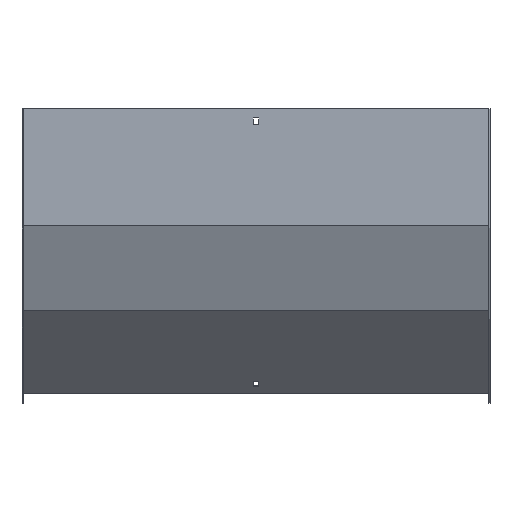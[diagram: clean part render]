
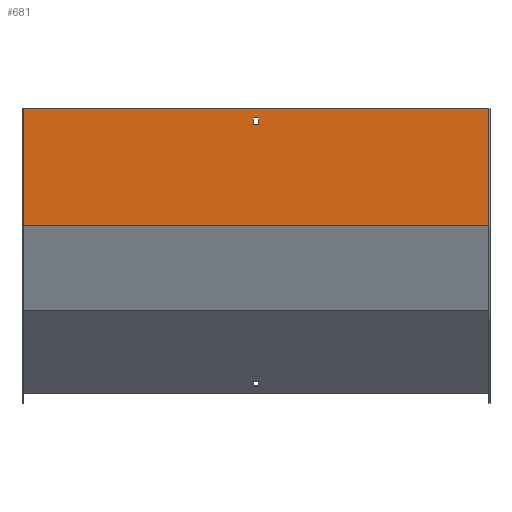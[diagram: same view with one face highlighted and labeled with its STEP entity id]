
A CAD part, front view. The second image highlights one B-rep face of the part: STEP entity #681.
In plain terms, the highlighted planar face has unit normal (0, -1, 0).
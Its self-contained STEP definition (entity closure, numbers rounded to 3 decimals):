
#9 = PLANE ( 'NONE',  #100 ) ;
#21 = DIRECTION ( 'NONE',  ( 0., 0., 1. ) ) ;
#25 = VERTEX_POINT ( 'NONE', #84 ) ;
#43 = VECTOR ( 'NONE', #320, 1000. ) ;
#49 = VERTEX_POINT ( 'NONE', #472 ) ;
#51 = EDGE_CURVE ( 'NONE', #25, #166, #286, .T. ) ;
#55 = VECTOR ( 'NONE', #289, 1000. ) ;
#56 = EDGE_LOOP ( 'NONE', ( #506, #301, #297, #788 ) ) ;
#84 = CARTESIAN_POINT ( 'NONE',  ( 300., -1.5, 0. ) ) ;
#88 = ORIENTED_EDGE ( 'NONE', *, *, #819, .F. ) ;
#91 = CARTESIAN_POINT ( 'NONE',  ( 300., -1.5, 0. ) ) ;
#97 = EDGE_LOOP ( 'NONE', ( #462, #88, #588, #510 ) ) ;
#98 = EDGE_CURVE ( 'NONE', #25, #497, #353, .T. ) ;
#100 = AXIS2_PLACEMENT_3D ( 'NONE', #278, #485, #732 ) ;
#110 = VERTEX_POINT ( 'NONE', #348 ) ;
#115 = CARTESIAN_POINT ( 'NONE',  ( 301.5, -1.5, -21. ) ) ;
#126 = VERTEX_POINT ( 'NONE', #527 ) ;
#134 = CARTESIAN_POINT ( 'NONE',  ( -3.25, -1.5, 0. ) ) ;
#165 = CARTESIAN_POINT ( 'NONE',  ( 301.5, -1.5, -150.098 ) ) ;
#166 = VERTEX_POINT ( 'NONE', #213 ) ;
#170 = CARTESIAN_POINT ( 'NONE',  ( -300., -1.5, 0. ) ) ;
#171 = VECTOR ( 'NONE', #209, 1000. ) ;
#209 = DIRECTION ( 'NONE',  ( 0., 0., -1. ) ) ;
#211 = VECTOR ( 'NONE', #21, 1000. ) ;
#213 = CARTESIAN_POINT ( 'NONE',  ( 300., -1.5, -150.098 ) ) ;
#227 = EDGE_CURVE ( 'NONE', #126, #674, #603, .T. ) ;
#278 = CARTESIAN_POINT ( 'NONE',  ( 301.5, -1.5, 0. ) ) ;
#286 = LINE ( 'NONE', #91, #454 ) ;
#289 = DIRECTION ( 'NONE',  ( 0., 0., -1. ) ) ;
#297 = ORIENTED_EDGE ( 'NONE', *, *, #51, .F. ) ;
#301 = ORIENTED_EDGE ( 'NONE', *, *, #336, .F. ) ;
#320 = DIRECTION ( 'NONE',  ( 1., 0., 0. ) ) ;
#321 = EDGE_CURVE ( 'NONE', #497, #49, #371, .T. ) ;
#325 = LINE ( 'NONE', #761, #526 ) ;
#336 = EDGE_CURVE ( 'NONE', #166, #49, #435, .T. ) ;
#346 = CARTESIAN_POINT ( 'NONE',  ( -3.25, -1.5, -21. ) ) ;
#348 = CARTESIAN_POINT ( 'NONE',  ( 3.25, -1.5, -12. ) ) ;
#350 = LINE ( 'NONE', #618, #211 ) ;
#353 = LINE ( 'NONE', #617, #831 ) ;
#360 = DIRECTION ( 'NONE',  ( 0., 0., -1. ) ) ;
#371 = LINE ( 'NONE', #170, #55 ) ;
#396 = LINE ( 'NONE', #115, #43 ) ;
#412 = CARTESIAN_POINT ( 'NONE',  ( -300., -1.5, 0. ) ) ;
#413 = DIRECTION ( 'NONE',  ( -1., 0., 0. ) ) ;
#435 = LINE ( 'NONE', #165, #550 ) ;
#447 = DIRECTION ( 'NONE',  ( -1., 0., 0. ) ) ;
#454 = VECTOR ( 'NONE', #360, 1000. ) ;
#462 = ORIENTED_EDGE ( 'NONE', *, *, #688, .F. ) ;
#472 = CARTESIAN_POINT ( 'NONE',  ( -300., -1.5, -150.098 ) ) ;
#485 = DIRECTION ( 'NONE',  ( 0., 1., 0. ) ) ;
#491 = FACE_BOUND ( 'NONE', #97, .T. ) ;
#497 = VERTEX_POINT ( 'NONE', #412 ) ;
#506 = ORIENTED_EDGE ( 'NONE', *, *, #321, .T. ) ;
#510 = ORIENTED_EDGE ( 'NONE', *, *, #598, .F. ) ;
#517 = CARTESIAN_POINT ( 'NONE',  ( 3.25, -1.5, -21. ) ) ;
#526 = VECTOR ( 'NONE', #447, 1000. ) ;
#527 = CARTESIAN_POINT ( 'NONE',  ( -3.25, -1.5, -12. ) ) ;
#550 = VECTOR ( 'NONE', #563, 1000. ) ;
#563 = DIRECTION ( 'NONE',  ( -1., 0., 0. ) ) ;
#588 = ORIENTED_EDGE ( 'NONE', *, *, #227, .F. ) ;
#598 = EDGE_CURVE ( 'NONE', #110, #126, #325, .T. ) ;
#603 = LINE ( 'NONE', #134, #171 ) ;
#608 = FACE_OUTER_BOUND ( 'NONE', #56, .T. ) ;
#617 = CARTESIAN_POINT ( 'NONE',  ( 301.5, -1.5, 0. ) ) ;
#618 = CARTESIAN_POINT ( 'NONE',  ( 3.25, -1.5, 0. ) ) ;
#674 = VERTEX_POINT ( 'NONE', #346 ) ;
#681 = ADVANCED_FACE ( 'NONE', ( #608, #491 ), #9, .F. ) ;
#688 = EDGE_CURVE ( 'NONE', #776, #110, #350, .T. ) ;
#732 = DIRECTION ( 'NONE',  ( 0., 0., 1. ) ) ;
#761 = CARTESIAN_POINT ( 'NONE',  ( 301.5, -1.5, -12. ) ) ;
#776 = VERTEX_POINT ( 'NONE', #517 ) ;
#788 = ORIENTED_EDGE ( 'NONE', *, *, #98, .T. ) ;
#819 = EDGE_CURVE ( 'NONE', #674, #776, #396, .T. ) ;
#831 = VECTOR ( 'NONE', #413, 1000. ) ;
